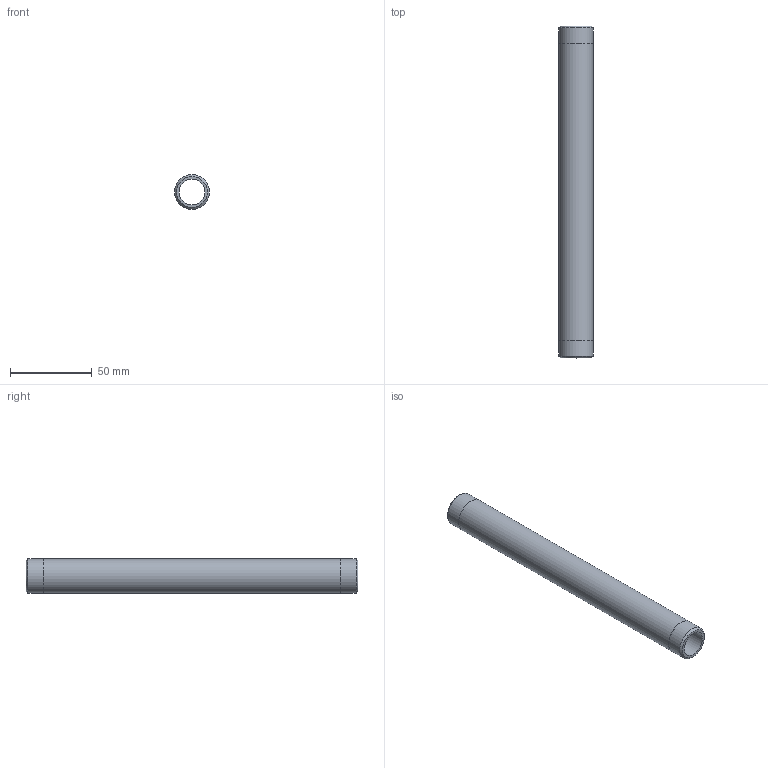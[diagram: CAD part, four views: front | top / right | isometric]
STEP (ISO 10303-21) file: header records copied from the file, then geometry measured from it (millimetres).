
FILE_DESCRIPTION(/* description */ (''),/* implementation_level */ '2;1');
FILE_NAME(/* name */ 'C:/Users/drich/Desktop/SSPN12-8 v1.step',/* time_stamp */ '2020-01-04T12:58:50-06:00',/* author */ (''),/* organization */ (''),/* preprocessor_version */ 'ST-DEVELOPER v18',/* originating_system */ 'Autodesk Translation Framework v8.12.0.6',/* authorisation */ '');
FILE_SCHEMA (('AUTOMOTIVE_DESIGN { 1 0 10303 214 3 1 1 }'));
Length unit declared in the file: inch
Products named in the file (1): SSPN12-8
Bounding box: 21.34 x 203.2 x 21.34 mm (x, y, z)
Volume: 32695.4 mm3; surface area: 23932.4 mm2
Topology: 1 solids, 1 shells, 10 faces, 24 edges, 18 vertices
Faces by surface type: cylinder 4, plane 4, cone 2
Full cylindrical faces by diameter (mm): 15.799 x1, 21.285 x2, 21.336 x1
Entity records: 353 total; most frequent: DIRECTION 64, CARTESIAN_POINT 53, ORIENTED_EDGE 48, AXIS2_PLACEMENT_3D 29, EDGE_CURVE 24, CIRCLE 18, VERTEX_POINT 18, EDGE_LOOP 14
